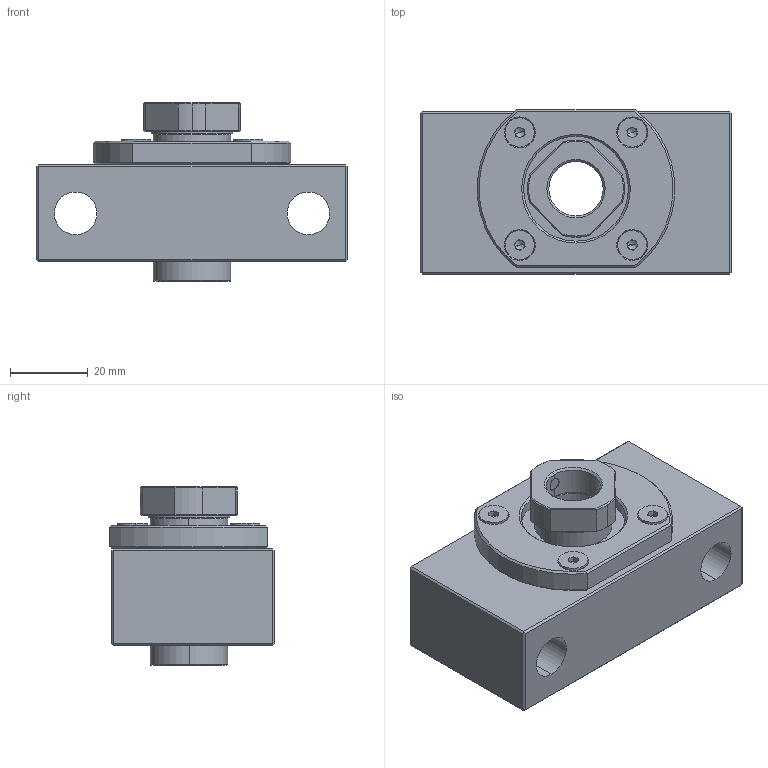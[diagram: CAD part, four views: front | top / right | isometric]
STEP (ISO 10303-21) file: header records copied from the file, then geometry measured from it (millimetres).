
FILE_DESCRIPTION (( 'STEP AP203' ), '1' );
FILE_NAME ('CSGK-15_203.STEP', '2013-03-03T01:37:53', ( 'Z77' ), ( '' ), 'SwSTEP 2.0', 'SolidWorks 2012', '' );
FILE_SCHEMA (( 'CONFIG_CONTROL_DESIGN' ));
Length unit declared in the file: millimetre
Products named in the file (1): CSGK-15_203
Bounding box: 80 x 42.38 x 46 mm (x, y, z)
Volume: 76168.2 mm3; surface area: 26123.9 mm2
Topology: 1 solids, 12 shells, 337 faces, 753 edges, 439 vertices
Faces by surface type: plane 129, cone 94, cylinder 90, torus 24
Entity records: 9366 total; most frequent: DIRECTION 1723, CARTESIAN_POINT 1685, ORIENTED_EDGE 1470, EDGE_CURVE 735, AXIS2_PLACEMENT_3D 681, VERTEX_POINT 439, EDGE_LOOP 380, LINE 361
